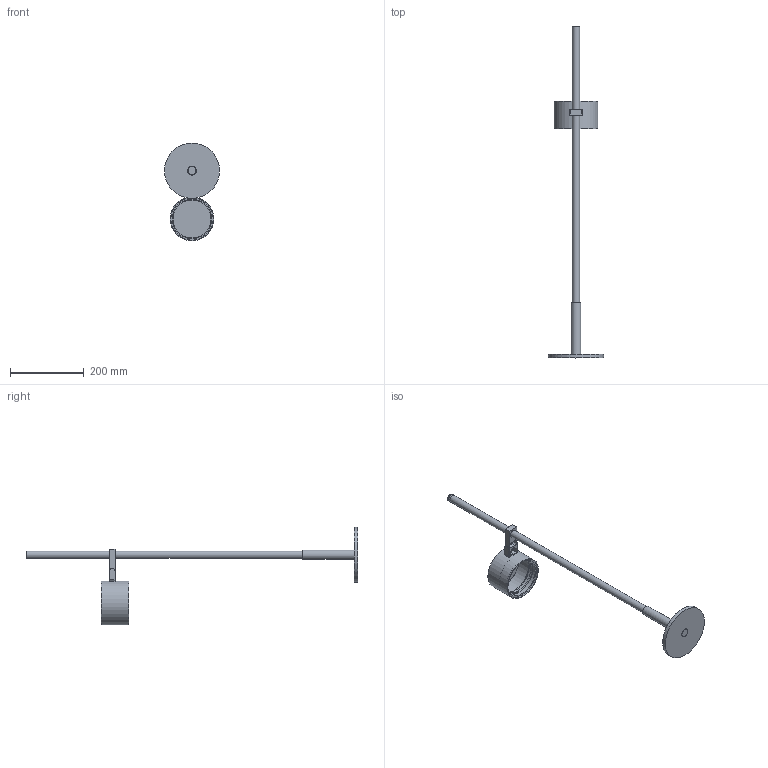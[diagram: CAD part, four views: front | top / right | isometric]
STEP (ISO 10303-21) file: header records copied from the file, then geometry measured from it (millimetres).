
FILE_DESCRIPTION(/* description */ (''),/* implementation_level */ '2;1');
FILE_NAME(/* name */ 'C:\Users\A.Cavazzi\Desktop\1A144 - BUBKA BOLLARD.stp',/* time_stamp */ '2022-09-12T16:44:17+02:00',/* author */ ('a.cavazzi'),/* organization */ (''),/* preprocessor_version */ 'ST-DEVELOPER v18.1',/* originating_system */ 'Autodesk Inventor 2021',/* authorisation */ '');
FILE_SCHEMA (('AUTOMOTIVE_DESIGN { 1 0 10303 214 3 1 1 }'));
Length unit declared in the file: millimetre
Products named in the file (1): Parte1
Bounding box: 150 x 902 x 265.5 mm (x, y, z)
Volume: 422842 mm3; surface area: 254789.3 mm2
Topology: 8 solids, 8 shells, 118 faces, 246 edges, 149 vertices
Faces by surface type: plane 64, cylinder 40, cone 14
Full cylindrical faces by diameter (mm): 3.242 x1, 12.6 x1, 16.3 x2, 17 x1, 20 x2, 20.5 x2, 21.835 x1, 22.5 x1, 24 x1, 25 x1, 103 x1, 107 x1, 110 x1, 112 x2, 114.5 x1, 115 x1, 119 x1, 150 x1
Entity records: 3369 total; most frequent: CARTESIAN_POINT 581, DIRECTION 565, ORIENTED_EDGE 482, EDGE_CURVE 241, AXIS2_PLACEMENT_3D 211, VERTEX_POINT 149, LINE 143, VECTOR 143
